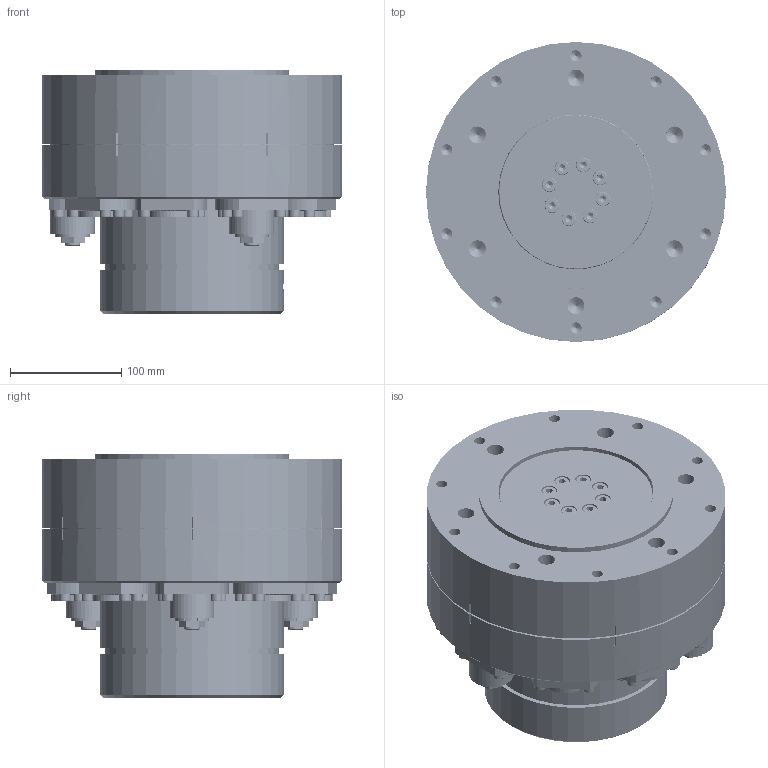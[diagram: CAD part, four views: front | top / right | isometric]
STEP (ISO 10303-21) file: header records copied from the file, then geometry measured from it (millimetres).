
FILE_DESCRIPTION(('STEP AP203'),'1');
FILE_NAME('1_dsm_3md_d55-a1.stp','2024-04-16T06:54:13',('TraceParts'),('TraceParts S.A.'),'Spatial InterOp 3D',' ',' ');
FILE_SCHEMA(('CONFIG_CONTROL_DESIGN'));
Length unit declared in the file: millimetre
Products named in the file (1): 1
Bounding box: 270 x 270 x 220 mm (x, y, z)
Volume: 8021916.6 mm3; surface area: 741563.4 mm2
Topology: 1 solids, 61 shells, 3576 faces, 10535 edges, 6866 vertices
Faces by surface type: plane 1156, cylinder 1050, cone 614, bspline 405, torus 336, sphere 15
Entity records: 127322 total; most frequent: CARTESIAN_POINT 32287, ORIENTED_EDGE 20614, DIRECTION 19931, EDGE_CURVE 10307, AXIS2_PLACEMENT_3D 7800, VERTEX_POINT 6866, CIRCLE 4610, LINE 4331
